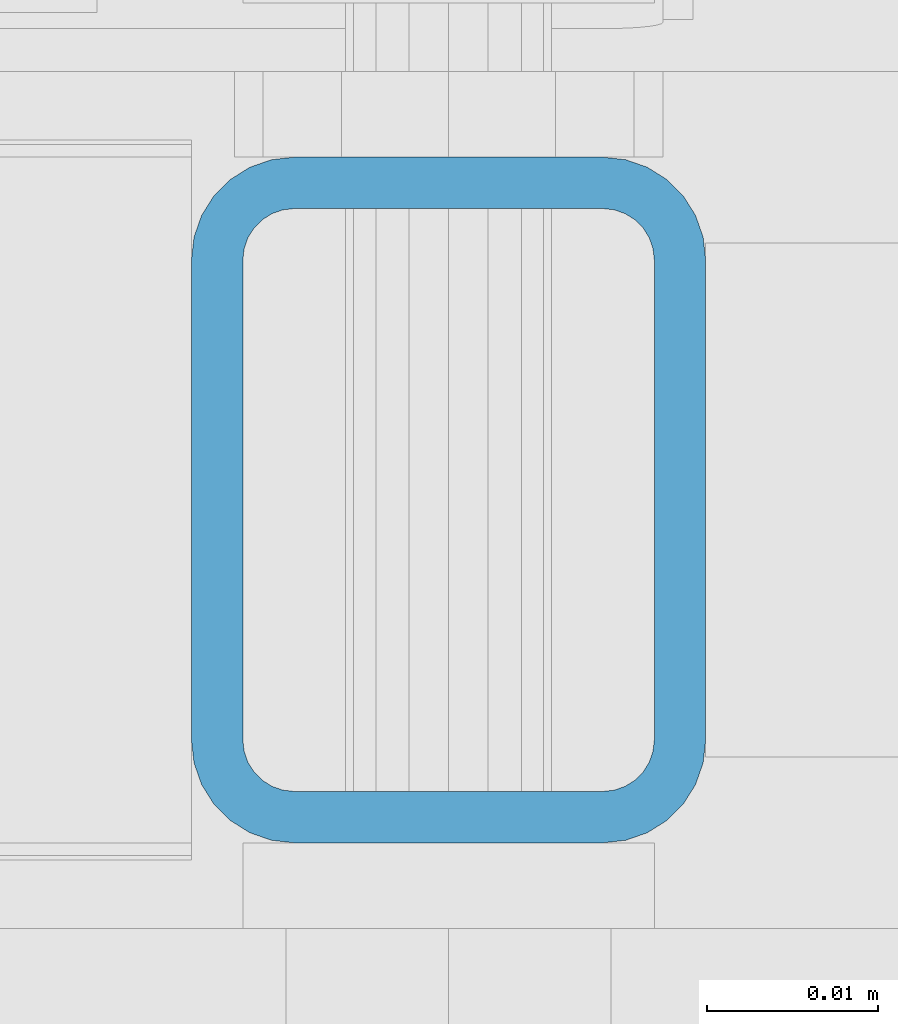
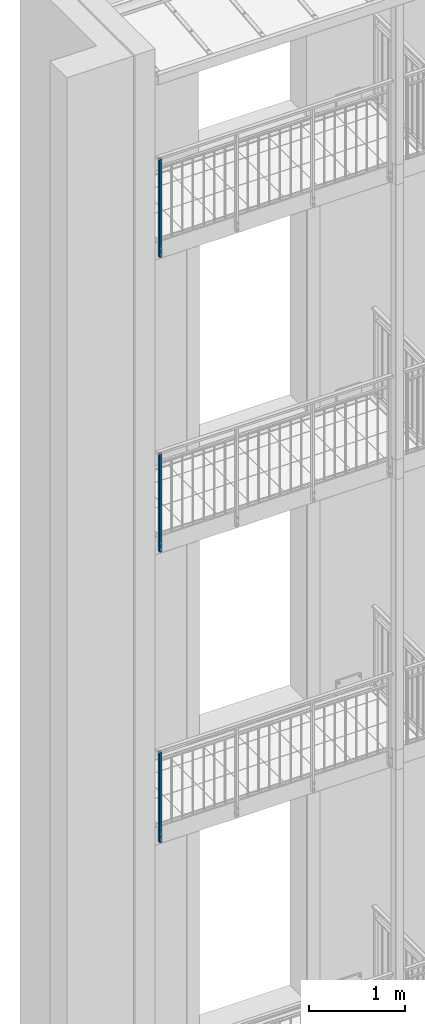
# One storey, part 1 of 162: 3 columns, 18 openings.
"""IFC2X3 building model written with IfcOpenShell, lengths in millimetres."""

from ifc_helpers import new_model, entity, si_unit, converted_unit, frame, frame_2d, origin, origin_with_axes, origin_2d, origin_2d_with_axis, place, context, project, spatial, hollow_rectangle, circle, extrude, material, element, save


model = new_model("IFC2X3")

# Units and contexts
model_context = context("Model", 3, precision=1e-09, world=origin_with_axes())
ifc_project = project(units=[si_unit("LENGTHUNIT", "METRE", prefix="MILLI"), si_unit("AREAUNIT", "SQUARE_METRE"), si_unit("VOLUMEUNIT", "CUBIC_METRE"), converted_unit("PLANEANGLEUNIT", "DEGREE", entity("IfcPlaneAngleMeasure", 0.01745329), si_unit("PLANEANGLEUNIT", "RADIAN"), dimensions=[0, 0, 0, 0, 0, 0, 0])], contexts=[model_context])

# Site, building, storey
site_placement = place(None, origin_with_axes())
site = spatial("IfcSite", under=ifc_project, at=site_placement, Name="Hermannstra?e 1a, 60318 Frankfurt", CompositionType="ELEMENT")
building_placement = place(site_placement, origin_with_axes())
building = spatial("IfcBuilding", under=site, at=building_placement, Name="Struktur 1", CompositionType="ELEMENT")
storey_placement = place(building_placement, origin_with_axes())
storey = spatial("IfcBuildingStorey", under=building, at=storey_placement, Name="Default Storey", CompositionType="ELEMENT", Elevation=0.0)

# Column, openings
ifc_material = material(Name="S235JR")
column_1_placement = place(None, frame((2603.30936482, 1515.609373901, 7600.0), z_axis=(0.0, 0.0, -1.0), x_axis=(1.0, 0.0, 0.0)))
column_1 = element("IfcColumn", 1, at=column_1_placement, inside=storey, material=ifc_material, Name="-", ObjectType="-", context=model_context, shape_type="SweptSolid", body=[
    extrude(hollow_rectangle(XDim=30.0, YDim=40.0, WallThickness=3.0, InnerFilletRadius=3.0, OuterFilletRadius=6.0, at=origin_2d()), origin(), (0.0, 0.0, -1.0), 1150.0),
])
opening_1_placement = place(column_1_placement, frame((11.5, 0.0, -1040.0), z_axis=(1.0, 0.0, 0.0), x_axis=(0.0, -1.0, 0.0)))
element("IfcOpeningElement", 2, at=opening_1_placement, cuts=column_1, ObjectType="Opening", context=model_context, shape_type="SweptSolid", body=[
    extrude(circle(Radius=5.001, at=origin_2d_with_axis()), origin(), (0.0, 0.0, 1.0), 4.0),
])
opening_2_placement = place(column_1_placement, frame((11.5, 0.0, -240.0), z_axis=(1.0, 0.0, 0.0), x_axis=(0.0, -1.0, 0.0)))
element("IfcOpeningElement", 3, at=opening_2_placement, cuts=column_1, ObjectType="Opening", context=model_context, shape_type="SweptSolid", body=[
    extrude(circle(Radius=5.001, at=frame_2d((0.0, -30.0), x_axis=(1.0, 0.0))), origin(), (0.0, 0.0, 1.0), 4.0),
])
opening_3_placement = place(column_1_placement, frame((-8.001, -16.5, -120.0), z_axis=(0.0, 1.0, 0.0), x_axis=(-1.0, 0.0, 0.0)))
element("IfcOpeningElement", 4, at=opening_3_placement, cuts=column_1, ObjectType="Opening", context=model_context, shape_type="SweptSolid", body=[
    extrude(circle(Radius=8.001, at=frame_2d((-8.001, 0.0), x_axis=(1.0, 0.0))), origin(), (0.0, 0.0, -1.0), 4.0),
])
opening_4_placement = place(column_1_placement, frame((-8.001, -16.5, -40.0), z_axis=(0.0, 1.0, 0.0), x_axis=(-1.0, 0.0, 0.0)))
element("IfcOpeningElement", 5, at=opening_4_placement, cuts=column_1, ObjectType="Opening", context=model_context, shape_type="SweptSolid", body=[
    extrude(circle(Radius=8.001, at=frame_2d((-8.001, 0.0), x_axis=(1.0, 0.0))), origin(), (0.0, 0.0, -1.0), 4.0),
])
opening_5_placement = place(column_1_placement, frame((-8.001, 20.5, -120.0), z_axis=(0.0, 1.0, 0.0), x_axis=(-1.0, 0.0, 0.0)))
element("IfcOpeningElement", 6, at=opening_5_placement, cuts=column_1, ObjectType="Opening", context=model_context, shape_type="SweptSolid", body=[
    extrude(circle(Radius=8.001, at=frame_2d((-8.001, 0.0), x_axis=(1.0, 0.0))), origin(), (0.0, 0.0, -1.0), 4.0),
])
opening_6_placement = place(column_1_placement, frame((-8.001, 20.5, -40.0), z_axis=(0.0, 1.0, 0.0), x_axis=(-1.0, 0.0, 0.0)))
element("IfcOpeningElement", 7, at=opening_6_placement, cuts=column_1, ObjectType="Opening", context=model_context, shape_type="SweptSolid", body=[
    extrude(circle(Radius=8.001, at=frame_2d((-8.001, 0.0), x_axis=(1.0, 0.0))), origin(), (0.0, 0.0, -1.0), 4.0),
])

column_2_placement = place(None, frame((2603.30936482, 1515.609373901, 11299.999), z_axis=(0.0, 0.0, -1.0), x_axis=(1.0, 0.0, 0.0)))
column_2 = element("IfcColumn", 8, at=column_2_placement, inside=storey, material=ifc_material, Name="-", ObjectType="-", context=model_context, shape_type="SweptSolid", body=[
    extrude(hollow_rectangle(XDim=30.0, YDim=40.0, WallThickness=3.0, InnerFilletRadius=3.0, OuterFilletRadius=6.0, at=origin_2d()), origin(), (0.0, 0.0, -1.0), 1250.0),
])
opening_7_placement = place(column_2_placement, frame((11.5, 0.0, -1040.0), z_axis=(1.0, 0.0, 0.0), x_axis=(0.0, -1.0, 0.0)))
element("IfcOpeningElement", 9, at=opening_7_placement, cuts=column_2, ObjectType="Opening", context=model_context, shape_type="SweptSolid", body=[
    extrude(circle(Radius=5.001, at=frame_2d((0.0, 100.0), x_axis=(1.0, 0.0))), origin(), (0.0, 0.0, 1.0), 4.0),
])
opening_8_placement = place(column_2_placement, frame((11.5, 0.0, -240.0), z_axis=(1.0, 0.0, 0.0), x_axis=(0.0, -1.0, 0.0)))
element("IfcOpeningElement", 10, at=opening_8_placement, cuts=column_2, ObjectType="Opening", context=model_context, shape_type="SweptSolid", body=[
    extrude(circle(Radius=5.001, at=frame_2d((0.0, -30.0), x_axis=(1.0, 0.0))), origin(), (0.0, 0.0, 1.0), 4.0),
])
opening_9_placement = place(column_2_placement, frame((-8.001, -16.5, -120.0), z_axis=(0.0, 1.0, 0.0), x_axis=(-1.0, 0.0, 0.0)))
element("IfcOpeningElement", 11, at=opening_9_placement, cuts=column_2, ObjectType="Opening", context=model_context, shape_type="SweptSolid", body=[
    extrude(circle(Radius=8.001, at=frame_2d((-8.001, 0.0), x_axis=(1.0, 0.0))), origin(), (0.0, 0.0, -1.0), 4.0),
])
opening_10_placement = place(column_2_placement, frame((-8.001, -16.5, -40.0), z_axis=(0.0, 1.0, 0.0), x_axis=(-1.0, 0.0, 0.0)))
element("IfcOpeningElement", 12, at=opening_10_placement, cuts=column_2, ObjectType="Opening", context=model_context, shape_type="SweptSolid", body=[
    extrude(circle(Radius=8.001, at=frame_2d((-8.001, 0.0), x_axis=(1.0, 0.0))), origin(), (0.0, 0.0, -1.0), 4.0),
])
opening_11_placement = place(column_2_placement, frame((-8.001, 20.5, -120.0), z_axis=(0.0, 1.0, 0.0), x_axis=(-1.0, 0.0, 0.0)))
element("IfcOpeningElement", 13, at=opening_11_placement, cuts=column_2, ObjectType="Opening", context=model_context, shape_type="SweptSolid", body=[
    extrude(circle(Radius=8.001, at=frame_2d((-8.001, 0.0), x_axis=(1.0, 0.0))), origin(), (0.0, 0.0, -1.0), 4.0),
])
opening_12_placement = place(column_2_placement, frame((-8.001, 20.5, -40.0), z_axis=(0.0, 1.0, 0.0), x_axis=(-1.0, 0.0, 0.0)))
element("IfcOpeningElement", 14, at=opening_12_placement, cuts=column_2, ObjectType="Opening", context=model_context, shape_type="SweptSolid", body=[
    extrude(circle(Radius=8.001, at=frame_2d((-8.001, 0.0), x_axis=(1.0, 0.0))), origin(), (0.0, 0.0, -1.0), 4.0),
])

column_3_placement = place(None, frame((2603.30936482, 1515.609373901, 15056.999), z_axis=(0.0, 0.0, -1.0), x_axis=(1.0, 0.0, 0.0)))
column_3 = element("IfcColumn", 15, at=column_3_placement, inside=storey, material=ifc_material, Name="-", ObjectType="-", context=model_context, shape_type="SweptSolid", body=[
    extrude(hollow_rectangle(XDim=30.0, YDim=40.0, WallThickness=3.0, InnerFilletRadius=3.0, OuterFilletRadius=6.0, at=origin_2d()), origin(), (0.0, 0.0, -1.0), 1250.0),
])
opening_13_placement = place(column_3_placement, frame((11.5, 0.0, -1040.0), z_axis=(1.0, 0.0, 0.0), x_axis=(0.0, -1.0, 0.0)))
element("IfcOpeningElement", 16, at=opening_13_placement, cuts=column_3, ObjectType="Opening", context=model_context, shape_type="SweptSolid", body=[
    extrude(circle(Radius=5.001, at=frame_2d((0.0, 100.0), x_axis=(1.0, 0.0))), origin(), (0.0, 0.0, 1.0), 4.0),
])
opening_14_placement = place(column_3_placement, frame((11.5, 0.0, -240.0), z_axis=(1.0, 0.0, 0.0), x_axis=(0.0, -1.0, 0.0)))
element("IfcOpeningElement", 17, at=opening_14_placement, cuts=column_3, ObjectType="Opening", context=model_context, shape_type="SweptSolid", body=[
    extrude(circle(Radius=5.001, at=frame_2d((0.0, -30.0), x_axis=(1.0, 0.0))), origin(), (0.0, 0.0, 1.0), 4.0),
])
opening_15_placement = place(column_3_placement, frame((-8.001, -16.5, -120.0), z_axis=(0.0, 1.0, 0.0), x_axis=(-1.0, 0.0, 0.0)))
element("IfcOpeningElement", 18, at=opening_15_placement, cuts=column_3, ObjectType="Opening", context=model_context, shape_type="SweptSolid", body=[
    extrude(circle(Radius=8.001, at=frame_2d((-8.001, 0.0), x_axis=(1.0, 0.0))), origin(), (0.0, 0.0, -1.0), 4.0),
])
opening_16_placement = place(column_3_placement, frame((-8.001, -16.5, -40.0), z_axis=(0.0, 1.0, 0.0), x_axis=(-1.0, 0.0, 0.0)))
element("IfcOpeningElement", 19, at=opening_16_placement, cuts=column_3, ObjectType="Opening", context=model_context, shape_type="SweptSolid", body=[
    extrude(circle(Radius=8.001, at=frame_2d((-8.001, 0.0), x_axis=(1.0, 0.0))), origin(), (0.0, 0.0, -1.0), 4.0),
])
opening_17_placement = place(column_3_placement, frame((-8.001, 20.5, -120.0), z_axis=(0.0, 1.0, 0.0), x_axis=(-1.0, 0.0, 0.0)))
element("IfcOpeningElement", 20, at=opening_17_placement, cuts=column_3, ObjectType="Opening", context=model_context, shape_type="SweptSolid", body=[
    extrude(circle(Radius=8.001, at=frame_2d((-8.001, 0.0), x_axis=(1.0, 0.0))), origin(), (0.0, 0.0, -1.0), 4.0),
])
opening_18_placement = place(column_3_placement, frame((-8.001, 20.5, -40.0), z_axis=(0.0, 1.0, 0.0), x_axis=(-1.0, 0.0, 0.0)))
element("IfcOpeningElement", 21, at=opening_18_placement, cuts=column_3, ObjectType="Opening", context=model_context, shape_type="SweptSolid", body=[
    extrude(circle(Radius=8.001, at=frame_2d((-8.001, 0.0), x_axis=(1.0, 0.0))), origin(), (0.0, 0.0, -1.0), 4.0),
])

save(model, "model.ifc")
